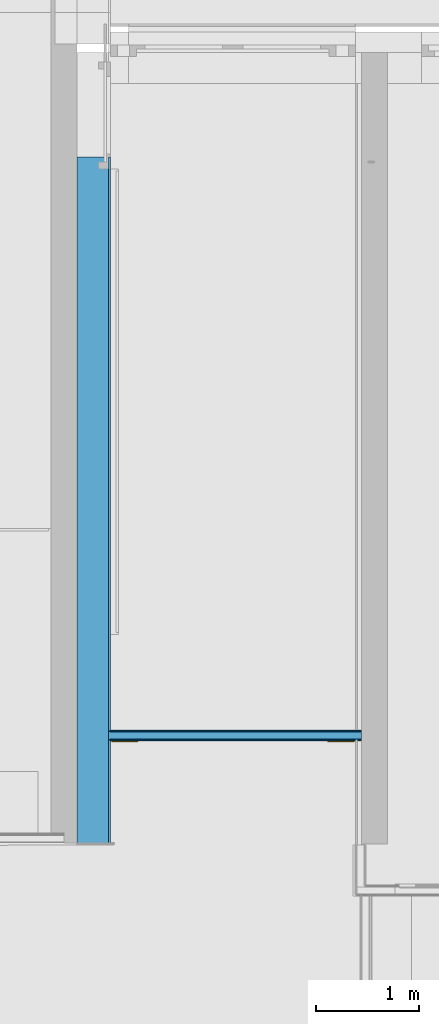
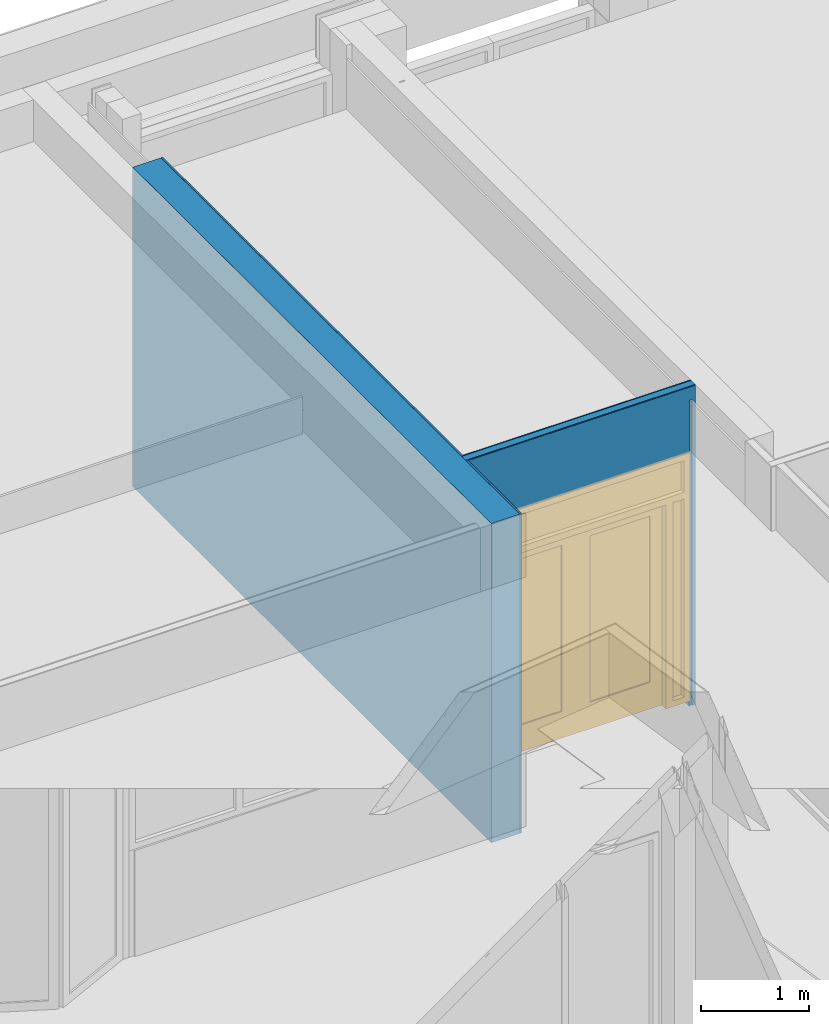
# One storey, part 65 of 167: 5 building element parts, 1 door, 1 opening, 2 elements without a shape of their own.
"""IFC2X3 building model written with IfcOpenShell, lengths in millimetres."""

from ifc_helpers import new_model, entity, si_unit, converted_unit, derived_unit, money_unit, direction, frame, origin_with_axes, place, context, subcontext, project, spatial, open_shell, faceted_brep, surface_model, material, type_object, element, fill, aggregate, save


model = new_model("IFC2X3")

# Units and contexts
model_context = context("Model", 3, precision=0.01, world=origin_with_axes(), true_north=direction((0.0, 1.0)))
plan_context = context("Plan", 3, precision=0.01, world=origin_with_axes(), true_north=direction((0.0, 1.0)))
body_context = subcontext(model_context, "Body", "Model", "MODEL_VIEW")
ifc_project = project(units=[si_unit("LENGTHUNIT", "METRE", prefix="MILLI"), si_unit("AREAUNIT", "SQUARE_METRE"), si_unit("VOLUMEUNIT", "CUBIC_METRE"), converted_unit("PLANEANGLEUNIT", "DEGREE", entity("IfcPlaneAngleMeasure", 0.0174532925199), si_unit("PLANEANGLEUNIT", "RADIAN"), dimensions=[0, 0, 0, 0, 0, 0, 0]), si_unit("SOLIDANGLEUNIT", "STERADIAN"), money_unit("EUR"), converted_unit("TIMEUNIT", "Year", entity("IfcTimeMeasure", 31556926.0), si_unit("TIMEUNIT", "SECOND"), dimensions=[0, 0, 1, 0, 0, 0, 0]), si_unit("MASSUNIT", "GRAM", prefix="KILO"), si_unit("THERMODYNAMICTEMPERATUREUNIT", "DEGREE_CELSIUS"), si_unit("LUMINOUSINTENSITYUNIT", "LUMEN"), si_unit("ENERGYUNIT", "JOULE", prefix="MEGA"), derived_unit("THERMALCONDUCTANCEUNIT", [(si_unit("POWERUNIT", "WATT"), 1), (si_unit("LENGTHUNIT", "METRE"), -1), (si_unit("THERMODYNAMICTEMPERATUREUNIT", "KELVIN"), -1)]), derived_unit("SPECIFICHEATCAPACITYUNIT", [(si_unit("ENERGYUNIT", "JOULE"), 1), (si_unit("MASSUNIT", "GRAM", prefix="KILO"), -1), (si_unit("THERMODYNAMICTEMPERATUREUNIT", "KELVIN"), -1)]), derived_unit("MASSDENSITYUNIT", [(si_unit("MASSUNIT", "GRAM", prefix="KILO"), 1), (si_unit("VOLUMEUNIT", "CUBIC_METRE"), -1)])], contexts=[model_context, plan_context])

# Site, building, storey
site_placement = place(None, origin_with_axes())
site = spatial("IfcSite", under=ifc_project, at=site_placement, Name="Site", CompositionType="ELEMENT")
building_placement = place(site_placement, origin_with_axes())
building = spatial("IfcBuilding", under=site, at=building_placement, Name="Naam gebouw", CompositionType="ELEMENT")
storey_placement = place(building_placement, origin_with_axes())
storey = spatial("IfcBuildingStorey", under=building, at=storey_placement, Name="Begane grond", CompositionType="ELEMENT", Elevation=0.0)

# Door
door_style = type_object("IfcDoorStyle", Name="D2 bl zl2 24", ConstructionType="NOTDEFINED", OperationType="USERDEFINED", ParameterTakesPrecedence=False, Sizeable=False)
wall_1_placement = place(storey_placement, frame((24475.0, 43200.0, -100.0), z_axis=(0.0, 0.0, 1.0), x_axis=(-1.0, 0.0, 0.0)))
opening_placement = place(wall_1_placement, frame((1242.99999541, 0.0, 100.0), z_axis=(0.0, 0.0, 1.0), x_axis=(1.0, 0.0, 0.0)))
door_placement = place(opening_placement, frame((1175.0, 0.0, 0.0), z_axis=(0.0, 0.0, 1.0), x_axis=(-1.0, 0.0, 0.0)))
door = element("IfcDoor", 1, at=door_placement, inside=storey, type_object=door_style, Name="32_Deur_Hi-20", ObjectType="DOOR", OverallHeight=2800.0, OverallWidth=2350.0, context=body_context, shape_type="SurfaceModel", body=[
    faceted_brep([(0.0, 50.0, 0.0), (67.0, 50.0, 0.0), (67.0, -64.0, 0.0), (0.0, -64.0, 0.0), (0.0, 50.0, 2733.0), (67.0, 50.0, 2733.0), (67.0, 50.0, 2375.0), (67.0, 50.0, 2300.0), (67.0, 50.0, 67.0), (67.0, -64.0, 67.0), (67.0, -64.0, 2300.0), (67.0, -64.0, 2375.0), (67.0, -64.0, 2733.0), (0.0, -64.0, 2733.0)], [[[0, 1, 2, 3]], [[0, 4, 5, 6, 7, 8, 1]], [[1, 8, 9, 2]], [[3, 2, 9, 10, 11, 12, 13]], [[4, 0, 3, 13]], [[5, 4, 13, 12]], [[6, 5, 12, 11]], [[7, 6, 11, 10]], [[8, 7, 10, 9]]]),
    faceted_brep([(259.5, 10.0, 0.0), (259.5, 10.0, 2300.0), (259.5, -64.0, 2300.0), (259.5, -64.0, 0.0), (234.5, 10.0, 2300.0), (234.5, 10.0, 0.0), (234.5, 50.0, 2300.0), (192.5, 50.0, 2300.0), (192.5, -64.0, 2300.0), (192.5, -64.0, 0.0), (192.5, -64.0, 67.0), (192.5, 50.0, 0.0), (234.5, 50.0, 0.0), (192.5, 50.0, 67.0)], [[[0, 1, 2, 3]], [[4, 1, 0, 5]], [[4, 6, 7, 8, 2, 1]], [[9, 3, 2, 8, 10]], [[5, 0, 3, 9, 11, 12]], [[6, 4, 5, 12]], [[6, 12, 11, 13, 7]], [[13, 10, 8, 7]], [[11, 9, 10, 13]]]),
    faceted_brep([(67.0, 50.0, 67.0), (67.0, 50.0, 0.0), (67.0, -64.0, 0.0), (67.0, -64.0, 67.0), (192.5, 50.0, 67.0), (192.5, 50.0, 0.0), (192.5, -64.0, 0.0), (192.5, -64.0, 67.0)], [[[0, 1, 2, 3]], [[0, 4, 5, 1]], [[1, 5, 6, 2]], [[3, 2, 6, 7]], [[4, 0, 3, 7]], [[5, 4, 7, 6]]]),
    faceted_brep([(2350.0, 50.0, 0.0), (2350.0, 50.0, 2733.0), (2350.0, -64.0, 2733.0), (2350.0, -64.0, 0.0), (2283.0, 50.0, 0.0), (2283.0, 50.0, 67.0), (2283.0, 50.0, 2300.0), (2283.0, 50.0, 2375.0), (2283.0, 50.0, 2733.0), (2283.0, -64.0, 2733.0), (2283.0, -64.0, 2375.0), (2283.0, -64.0, 2300.0), (2283.0, -64.0, 67.0), (2283.0, -64.0, 0.0)], [[[0, 1, 2, 3]], [[0, 4, 5, 6, 7, 8, 1]], [[1, 8, 9, 2]], [[3, 2, 9, 10, 11, 12, 13]], [[4, 0, 3, 13]], [[5, 4, 13, 12]], [[6, 5, 12, 11]], [[7, 6, 11, 10]], [[8, 7, 10, 9]]]),
    faceted_brep([(2115.5, 10.0, 2300.0), (2090.5, 10.0, 2300.0), (2090.5, -64.0, 2300.0), (2165.5, -64.0, 2300.0), (2165.5, 50.0, 2300.0), (2115.5, 50.0, 2300.0), (2115.5, 10.0, 0.0), (2090.5, 10.0, 0.0), (2090.5, -64.0, 0.0), (2165.5, -64.0, 0.0), (2165.5, -64.0, 67.0), (2165.5, 50.0, 67.0), (2115.5, 50.0, 0.0), (2165.5, 50.0, 0.0)], [[[0, 1, 2, 3, 4, 5]], [[1, 0, 6, 7]], [[1, 7, 8, 2]], [[8, 9, 10, 3, 2]], [[4, 3, 10, 11]], [[12, 5, 4, 11, 13]], [[0, 5, 12, 6]], [[6, 12, 13, 9, 8, 7]], [[11, 10, 9, 13]]]),
    faceted_brep([(2165.5, 50.0, 67.0), (2165.5, 50.0, 0.0), (2165.5, -64.0, 0.0), (2165.5, -64.0, 67.0), (2283.0, 50.0, 67.0), (2283.0, 50.0, 0.0), (2283.0, -64.0, 0.0), (2283.0, -64.0, 67.0)], [[[0, 1, 2, 3]], [[0, 4, 5, 1]], [[1, 5, 6, 2]], [[3, 2, 6, 7]], [[4, 0, 3, 7]], [[5, 4, 7, 6]]]),
    faceted_brep([(0.0, 50.0, 2800.0), (0.0, 50.0, 2733.0), (0.0, -64.0, 2733.0), (0.0, -64.0, 2800.0), (2350.0, 50.0, 2800.0), (2350.0, 50.0, 2733.0), (2283.0, 50.0, 2733.0), (67.0, 50.0, 2733.0), (67.0, -64.0, 2733.0), (2283.0, -64.0, 2733.0), (2350.0, -64.0, 2733.0), (2350.0, -64.0, 2800.0)], [[[0, 1, 2, 3]], [[0, 4, 5, 6, 7, 1]], [[1, 7, 8, 2]], [[3, 2, 8, 9, 10, 11]], [[4, 0, 3, 11]], [[5, 4, 11, 10]], [[6, 5, 10, 9]], [[7, 6, 9, 8]]]),
    faceted_brep([(234.5, 50.0, 2325.0), (234.5, 50.0, 2300.0), (192.5, 50.0, 2300.0), (67.0, 50.0, 2300.0), (67.0, 50.0, 2375.0), (2283.0, 50.0, 2375.0), (2283.0, 50.0, 2300.0), (2165.5, 50.0, 2300.0), (2115.5, 50.0, 2300.0), (2115.5, 50.0, 2325.0), (234.5, 10.0, 2325.0), (234.5, 10.0, 2300.0), (259.5, 10.0, 2300.0), (259.5, -64.0, 2300.0), (192.5, -64.0, 2300.0), (67.0, -64.0, 2300.0), (67.0, -64.0, 2375.0), (2283.0, -64.0, 2375.0), (2283.0, -64.0, 2300.0), (2165.5, -64.0, 2300.0), (2115.5, 10.0, 2300.0), (2090.5, -64.0, 2300.0), (2090.5, 10.0, 2300.0), (2115.5, 10.0, 2325.0)], [[[0, 1, 2, 3, 4, 5, 6, 7, 8, 9]], [[1, 0, 10, 11]], [[11, 12, 13, 14, 2, 1]], [[2, 14, 15, 3]], [[3, 15, 16, 4]], [[4, 16, 17, 5]], [[5, 17, 18, 6]], [[6, 18, 19, 7]], [[20, 8, 7, 19, 21, 22]], [[9, 8, 20, 23]], [[0, 9, 23, 10]], [[20, 22, 12, 11, 10, 23]], [[12, 22, 21, 13]], [[18, 17, 16, 15, 14, 13, 21, 19]]]),
    faceted_brep([(2115.5, 50.0, 300.0), (2115.5, 10.0, 300.0), (1965.5, 10.0, 300.0), (1965.5, 50.0, 300.0), (2115.5, 50.0, 2175.0), (2115.5, 10.0, 2175.0), (1965.5, 10.0, 2175.0), (1965.5, 50.0, 2175.0)], [[[0, 1, 2, 3]], [[4, 5, 1, 0]], [[1, 5, 6, 2]], [[3, 2, 6, 7]], [[0, 3, 7, 4]], [[7, 6, 5, 4]]]),
    faceted_brep([(1175.0, 50.0, 300.0), (1175.0, 10.0, 300.0), (1175.0, 10.0, 2175.0), (1175.0, 50.0, 2175.0), (1325.0, 50.0, 300.0), (1325.0, 10.0, 300.0), (1325.0, 10.0, 2175.0), (1325.0, 50.0, 2175.0)], [[[0, 1, 2, 3]], [[4, 5, 1, 0]], [[1, 5, 6, 2]], [[3, 2, 6, 7]], [[0, 3, 7, 4]], [[7, 6, 5, 4]]]),
    faceted_brep([(2115.5, 50.0, 0.0), (2115.5, 10.0, 0.0), (1175.0, 10.0, 0.0), (1175.0, 50.0, 0.0), (2115.5, 50.0, 300.0), (2115.5, 10.0, 300.0), (1965.5, 10.0, 300.0), (1325.0, 10.0, 300.0), (1175.0, 10.0, 300.0), (1175.0, 50.0, 300.0), (1325.0, 50.0, 300.0), (1965.5, 50.0, 300.0)], [[[0, 1, 2, 3]], [[4, 5, 1, 0]], [[1, 5, 6, 7, 8, 2]], [[3, 2, 8, 9]], [[0, 3, 9, 10, 11, 4]], [[11, 6, 5, 4]], [[10, 7, 6, 11]], [[9, 8, 7, 10]]]),
    faceted_brep([(2115.5, 50.0, 2325.0), (2115.5, 10.0, 2325.0), (2115.5, 10.0, 2175.0), (2115.5, 50.0, 2175.0), (1175.0, 50.0, 2325.0), (1175.0, 10.0, 2325.0), (1175.0, 10.0, 2175.0), (1325.0, 10.0, 2175.0), (1965.5, 10.0, 2175.0), (1965.5, 50.0, 2175.0), (1325.0, 50.0, 2175.0), (1175.0, 50.0, 2175.0)], [[[0, 1, 2, 3]], [[4, 5, 1, 0]], [[1, 5, 6, 7, 8, 2]], [[3, 2, 8, 9]], [[0, 3, 9, 10, 11, 4]], [[11, 6, 5, 4]], [[10, 7, 6, 11]], [[9, 8, 7, 10]]]),
    surface_model("IfcShellBasedSurfaceModel", [(1965.5, 36.0, 300.0), (1325.0, 36.0, 300.0), (1325.0, 36.0, 2175.0), (1965.5, 36.0, 2175.0)], [open_shell([[[0, 1, 2, 3]]])]),
    surface_model("IfcShellBasedSurfaceModel", [(1965.5, 24.0, 300.0), (1965.5, 24.0, 2175.0), (1325.0, 24.0, 2175.0), (1325.0, 24.0, 300.0)], [open_shell([[[0, 1, 2, 3]]])]),
    faceted_brep([(234.5, 50.0, 300.0), (384.5, 50.0, 300.0), (384.5, 10.0, 300.0), (234.5, 10.0, 300.0), (234.5, 50.0, 2175.0), (384.5, 50.0, 2175.0), (384.5, 10.0, 2175.0), (234.5, 10.0, 2175.0)], [[[0, 1, 2, 3]], [[0, 4, 5, 1]], [[1, 5, 6, 2]], [[3, 2, 6, 7]], [[4, 0, 3, 7]], [[5, 4, 7, 6]]]),
    faceted_brep([(1175.0, 50.0, 300.0), (1175.0, 50.0, 2175.0), (1175.0, 10.0, 2175.0), (1175.0, 10.0, 300.0), (1025.0, 50.0, 300.0), (1025.0, 50.0, 2175.0), (1025.0, 10.0, 2175.0), (1025.0, 10.0, 300.0)], [[[0, 1, 2, 3]], [[0, 4, 5, 1]], [[1, 5, 6, 2]], [[3, 2, 6, 7]], [[4, 0, 3, 7]], [[5, 4, 7, 6]]]),
    faceted_brep([(234.5, 50.0, 0.0), (1175.0, 50.0, 0.0), (1175.0, 10.0, 0.0), (234.5, 10.0, 0.0), (234.5, 50.0, 300.0), (384.5, 50.0, 300.0), (1025.0, 50.0, 300.0), (1175.0, 50.0, 300.0), (1175.0, 10.0, 300.0), (1025.0, 10.0, 300.0), (384.5, 10.0, 300.0), (234.5, 10.0, 300.0)], [[[0, 1, 2, 3]], [[0, 4, 5, 6, 7, 1]], [[1, 7, 8, 2]], [[3, 2, 8, 9, 10, 11]], [[4, 0, 3, 11]], [[5, 4, 11, 10]], [[6, 5, 10, 9]], [[7, 6, 9, 8]]]),
    faceted_brep([(234.5, 50.0, 2325.0), (234.5, 50.0, 2175.0), (234.5, 10.0, 2175.0), (234.5, 10.0, 2325.0), (1175.0, 50.0, 2325.0), (1175.0, 50.0, 2175.0), (1025.0, 50.0, 2175.0), (384.5, 50.0, 2175.0), (384.5, 10.0, 2175.0), (1025.0, 10.0, 2175.0), (1175.0, 10.0, 2175.0), (1175.0, 10.0, 2325.0)], [[[0, 1, 2, 3]], [[0, 4, 5, 6, 7, 1]], [[1, 7, 8, 2]], [[3, 2, 8, 9, 10, 11]], [[4, 0, 3, 11]], [[5, 4, 11, 10]], [[6, 5, 10, 9]], [[7, 6, 9, 8]]]),
    surface_model("IfcShellBasedSurfaceModel", [(384.5, 36.0, 300.0), (384.5, 36.0, 2175.0), (1025.0, 36.0, 2175.0), (1025.0, 36.0, 300.0)], [open_shell([[[0, 1, 2, 3]]])]),
    surface_model("IfcShellBasedSurfaceModel", [(384.5, 24.0, 300.0), (1025.0, 24.0, 300.0), (1025.0, 24.0, 2175.0), (384.5, 24.0, 2175.0)], [open_shell([[[0, 1, 2, 3]]])]),
    surface_model("IfcShellBasedSurfaceModel", [(67.0, -4.0, 2375.0), (67.0, -4.0, 2733.0), (2283.0, -4.0, 2733.0), (2283.0, -4.0, 2375.0)], [open_shell([[[0, 1, 2, 3]]])]),
    surface_model("IfcShellBasedSurfaceModel", [(67.0, -16.0, 2375.0), (2283.0, -16.0, 2375.0), (2283.0, -16.0, 2733.0), (67.0, -16.0, 2733.0)], [open_shell([[[0, 1, 2, 3]]])]),
    surface_model("IfcShellBasedSurfaceModel", [(67.0, -4.0, 67.0), (67.0, -4.0, 2300.0), (192.5, -4.0, 2300.0), (192.5, -4.0, 67.0)], [open_shell([[[0, 1, 2, 3]]])]),
    surface_model("IfcShellBasedSurfaceModel", [(67.0, -16.0, 67.0), (192.5, -16.0, 67.0), (192.5, -16.0, 2300.0), (67.0, -16.0, 2300.0)], [open_shell([[[0, 1, 2, 3]]])]),
    surface_model("IfcShellBasedSurfaceModel", [(2165.5, -4.0, 67.0), (2165.5, -4.0, 2300.0), (2283.0, -4.0, 2300.0), (2283.0, -4.0, 67.0)], [open_shell([[[0, 1, 2, 3]]])]),
    surface_model("IfcShellBasedSurfaceModel", [(2165.5, -16.0, 67.0), (2283.0, -16.0, 67.0), (2283.0, -16.0, 2300.0), (2165.5, -16.0, 2300.0)], [open_shell([[[0, 1, 2, 3]]])]),
])

# Wall, opening
wall_type_1 = type_object("IfcWallType", Name="_TenW_22_Metalstud 100 enkel gipsvezelplaat 100", PredefinedType="NOTDEFINED")
wall_1 = element("IfcWall", 2, at=wall_1_placement, inside=storey, type_object=wall_type_1, Name="22_Wand_Wand-x")
opening = element("IfcOpeningElement", 3, at=opening_placement, cuts=wall_1, Name="32_Deur_Hi-20", context=body_context, shape_type="Brep", body=[
    faceted_brep([(-1175.0, 100.0, 2800.0), (-1175.0, 100.0, 0.0), (-1175.0, -200.0, 0.0), (-1175.0, -200.0, 2800.0), (1175.0, 100.0, 2800.0), (1175.0, 100.0, 0.0), (1175.0, -200.0, 0.0), (1175.0, -200.0, 2800.0)], [[[0, 1, 2, 3]], [[0, 4, 5, 1]], [[1, 5, 6, 2]], [[3, 2, 6, 7]], [[4, 0, 3, 7]], [[5, 4, 7, 6]]]),
])

fill(opening, door)

# Building element part
ifc_material_1 = material(Name="Gipsplaat watervast")
building_element_part_1_placement = place(wall_1_placement, origin_with_axes())
building_element_part_1 = element("IfcBuildingElementPart", 4, at=building_element_part_1_placement, material=ifc_material_1, Name="Gipsplaat watervast", context=body_context, shape_type="Brep", body=[
    faceted_brep([(2417.99999541, 37.4999998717, 2900.0), (2417.99999541, 37.4999998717, 100.0), (2417.99999541, 37.4999999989, 30.0), (2426.0, 37.4999999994, 30.0), (2426.0, 37.4999999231, 3629.99999752), (0.0, 37.4999994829, 3629.99999752), (5.03836261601e-06, 37.4999999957, 30.0), (39.9999908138, 37.4999998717, 30.0), (39.9999908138, 37.4999998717, 3480.00000224), (59.9999908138, 37.4999998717, 3480.00000224), (59.9999908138, 37.4999998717, 30.0), (67.9999954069, 37.4999998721, 30.0), (67.9999954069, 37.4999998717, 100.0), (67.9999954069, 37.4999998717, 2900.0), (2417.99999541, 49.9999990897, 2900.0), (2417.99999541, 49.9999990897, 100.0), (2417.99999541, 49.9999999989, 30.0), (2426.0, 49.9999999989, 30.0), (2426.0, 49.9999998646, 3629.99999752), (0.0, 49.9999990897, 3629.99999752), (0.0, 49.9999990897, 3480.00000224), (5.03655428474e-06, 49.9999999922, 30.0), (39.9999908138, 49.9999999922, 30.0), (39.9999908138, 49.9999990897, 3480.00000224), (59.9999908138, 49.9999990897, 3480.00000224), (59.9999908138, 49.9999999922, 30.0), (67.9999954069, 49.9999999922, 30.0), (67.9999954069, 49.9999990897, 100.0), (67.9999954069, 49.9999990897, 2900.0)], [[[0, 1, 2, 3, 4, 5, 6, 7, 8, 9, 10, 11, 12, 13]], [[1, 0, 14, 15]], [[1, 15, 16, 2]], [[16, 17, 3, 2]], [[17, 18, 4, 3]], [[18, 19, 5, 4]], [[5, 19, 20, 21, 6]], [[6, 21, 22, 7]], [[22, 23, 8, 7]], [[9, 8, 23, 24]], [[10, 9, 24, 25]], [[11, 10, 25, 26]], [[27, 12, 11, 26]], [[13, 12, 27, 28]], [[0, 13, 28, 14]], [[28, 27, 26, 25, 24, 23, 22, 21, 20, 19, 18, 17, 16, 15, 14]]]),
])

ifc_material_2 = material(Name="Isolatie - Steenwol zacht")
building_element_part_2_placement = place(wall_1_placement, origin_with_axes())
building_element_part_2 = element("IfcBuildingElementPart", 5, at=building_element_part_2_placement, material=ifc_material_2, Name="Isolatie - Steenwol zacht", context=body_context, shape_type="Brep", body=[
    faceted_brep([(2417.99999541, -37.5000000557, 2900.0), (2417.99999541, -37.5000000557, 100.0), (2417.99999541, -37.5000000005, 30.0), (2446.0, -37.5000000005, 30.0), (2446.0, -37.5000000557, 3629.99999752), (0.0, -37.5000003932, 3629.99999752), (5.03836261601e-06, -37.5000000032, 30.0), (67.9999954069, -37.5000000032, 30.0), (67.9999954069, -37.5000000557, 100.0), (67.9999954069, -37.5000000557, 2900.0), (2417.99999541, 37.5, 2900.0), (2417.99999541, 37.5, 100.0), (2417.99999541, 37.4999999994, 30.0), (2446.0, 37.4999999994, 30.0), (2446.0, 37.4999999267, 3629.99999752), (0.0, 37.4999994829, 3629.99999752), (5.03836261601e-06, 37.4999999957, 30.0), (67.9999954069, 37.4999999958, 30.0), (67.9999954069, 37.5, 100.0), (67.9999954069, 37.5, 2900.0)], [[[0, 1, 2, 3, 4, 5, 6, 7, 8, 9]], [[1, 0, 10, 11]], [[1, 11, 12, 2]], [[12, 13, 3, 2]], [[13, 14, 4, 3]], [[14, 15, 5, 4]], [[6, 5, 15, 16]], [[7, 6, 16, 17]], [[18, 8, 7, 17]], [[9, 8, 18, 19]], [[0, 9, 19, 10]], [[19, 18, 17, 16, 15, 14, 13, 12, 11, 10]]]),
])

building_element_part_3_placement = place(wall_1_placement, origin_with_axes())
building_element_part_3 = element("IfcBuildingElementPart", 6, at=building_element_part_3_placement, material=ifc_material_1, Name="Gipsplaat watervast", context=body_context, shape_type="Brep", body=[
    faceted_brep([(2417.99999541, -50.0, 2900.0), (2417.99999541, -50.0, 100.0), (2417.99999541, -50.0, 30.0), (2426.0, -50.0, 30.0), (2426.0, -50.0, 3629.99999752), (0.0, -50.0, 3629.99999752), (-9.18624465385e-06, -50.0, 3480.00000224), (59.9999908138, -50.0, 3480.00000224), (59.9999908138, -50.0, 30.0), (67.9999954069, -50.0, 30.0), (67.9999954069, -50.0, 100.0), (67.9999954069, -50.0, 2900.0), (2417.99999541, -37.5, 2900.0), (2417.99999541, -37.5, 100.0), (2417.99999541, -37.5000000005, 30.0), (2426.0, -37.5000000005, 30.0), (2426.0, -37.5000000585, 3629.99999752), (0.0, -37.5000003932, 3629.99999752), (-9.18624465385e-06, -37.5, 3480.00000224), (59.9999908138, -37.5, 3480.00000224), (59.9999908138, -37.5, 30.0), (67.9999954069, -37.5, 30.0), (67.9999954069, -37.5, 100.0), (67.9999954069, -37.5, 2900.0)], [[[0, 1, 2, 3, 4, 5, 6, 7, 8, 9, 10, 11]], [[1, 0, 12, 13]], [[1, 13, 14, 2]], [[14, 15, 3, 2]], [[15, 16, 4, 3]], [[16, 17, 5, 4]], [[18, 6, 5, 17]], [[18, 19, 7, 6]], [[8, 7, 19, 20]], [[9, 8, 20, 21]], [[22, 10, 9, 21]], [[11, 10, 22, 23]], [[0, 11, 23, 12]], [[23, 22, 21, 20, 19, 18, 17, 16, 15, 14, 13, 12]]]),
])

aggregate(wall_1, [building_element_part_1, building_element_part_2, building_element_part_3])

# Wall, building element parts
wall_type_2 = type_object("IfcWallType", Name="_TenW_21_E-BOARD_304mm+20mm 324", PredefinedType="NOTDEFINED")
wall_2_placement = place(storey_placement, frame((21725.0, 42162.1676595, -100.0), z_axis=(0.0, 0.0, 1.0), x_axis=(0.0, 1.0, 0.0)))
wall_2 = element("IfcWall", 7, at=wall_2_placement, inside=storey, type_object=wall_type_2, Name="21_Wand_Wand-x")
building_element_part_4_placement = place(wall_2_placement, origin_with_axes())
building_element_part_4 = element("IfcBuildingElementPart", 8, at=building_element_part_4_placement, material=ifc_material_2, Name="Isolatie - Steenwol zacht", context=body_context, shape_type="Brep", body=[
    faceted_brep([(6626.88961621, 0.0, 3630.0), (6626.88961621, -304.0, 3630.0), (6626.88961621, -304.0, 30.0), (6626.88961621, 0.0, 30.0), (0.0, -304.0, 3630.0), (0.0, 0.0, 3630.0), (0.0, -304.0, 30.0), (0.0, 0.0, 30.0)], [[[0, 1, 2, 3]], [[4, 1, 0, 5]], [[1, 4, 6, 2]], [[3, 2, 6, 7]], [[5, 0, 3, 7]], [[4, 5, 7, 6]]]),
])
ifc_material_3 = material(Name="_TenW_21_Steen - Baksteen")
building_element_part_5_placement = place(wall_2_placement, origin_with_axes())
building_element_part_5 = element("IfcBuildingElementPart", 9, at=building_element_part_5_placement, material=ifc_material_3, Name="_TenW_21_Steen - Baksteen", context=body_context, shape_type="Brep", body=[
    faceted_brep([(1000.33234056, -304.0, 3630.0), (1000.33234056, -324.0, 3630.0), (1000.33234049, -324.0, 30.0), (1000.33234049, -304.0, 30.0), (0.0, -324.0, 3630.0), (0.0, -304.0, 3630.0), (0.0, -324.0, 30.0), (0.0, -304.0, 30.0)], [[[0, 1, 2, 3]], [[4, 1, 0, 5]], [[1, 4, 6, 2]], [[3, 2, 6, 7]], [[5, 0, 3, 7]], [[4, 5, 7, 6]]]),
    faceted_brep([(6626.88961621, -304.0, 3630.0), (6626.88961621, -324.0, 3630.0), (6626.88961621, -324.0, 30.0), (6626.88961621, -304.0, 30.0), (1075.33234055, -324.0, 3630.0), (1075.33234054, -304.0, 3630.0), (1075.33234049, -324.0, 30.0), (1075.33234049, -304.0, 30.0)], [[[0, 1, 2, 3]], [[4, 1, 0, 5]], [[1, 4, 6, 2]], [[3, 2, 6, 7]], [[5, 0, 3, 7]], [[4, 5, 7, 6]]]),
])
aggregate(wall_2, [building_element_part_4, building_element_part_5])

save(model, "model.ifc")
